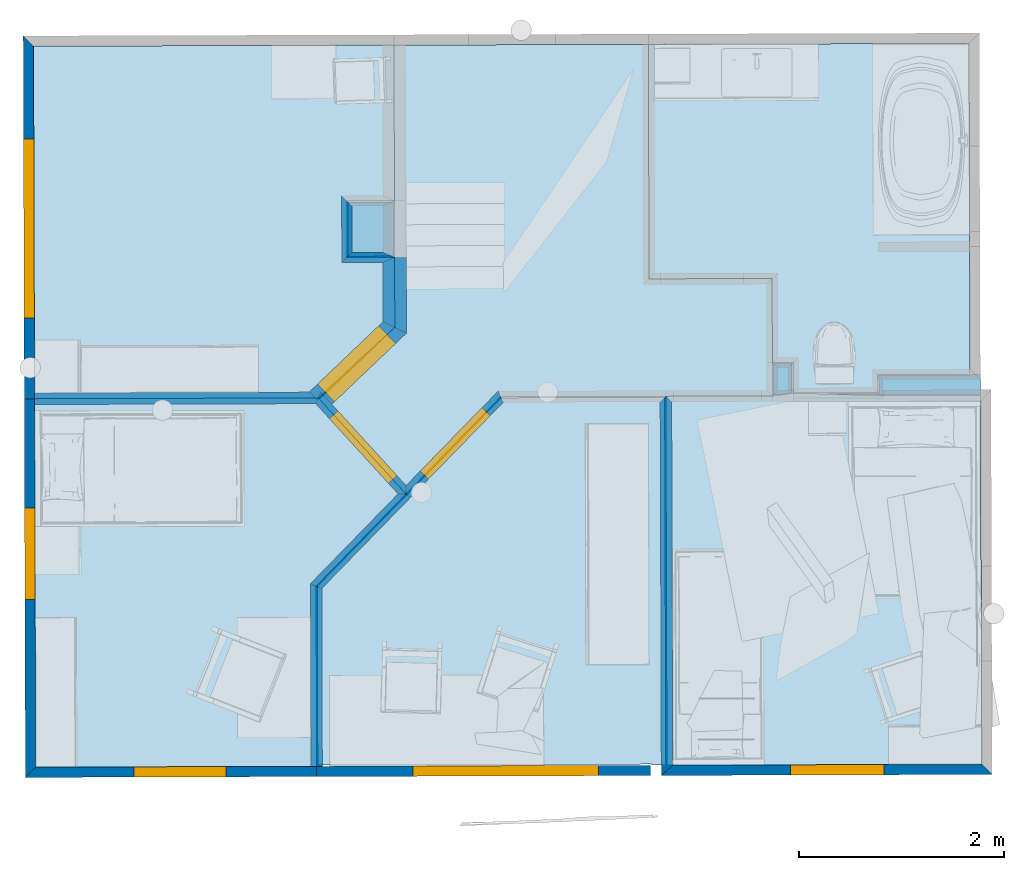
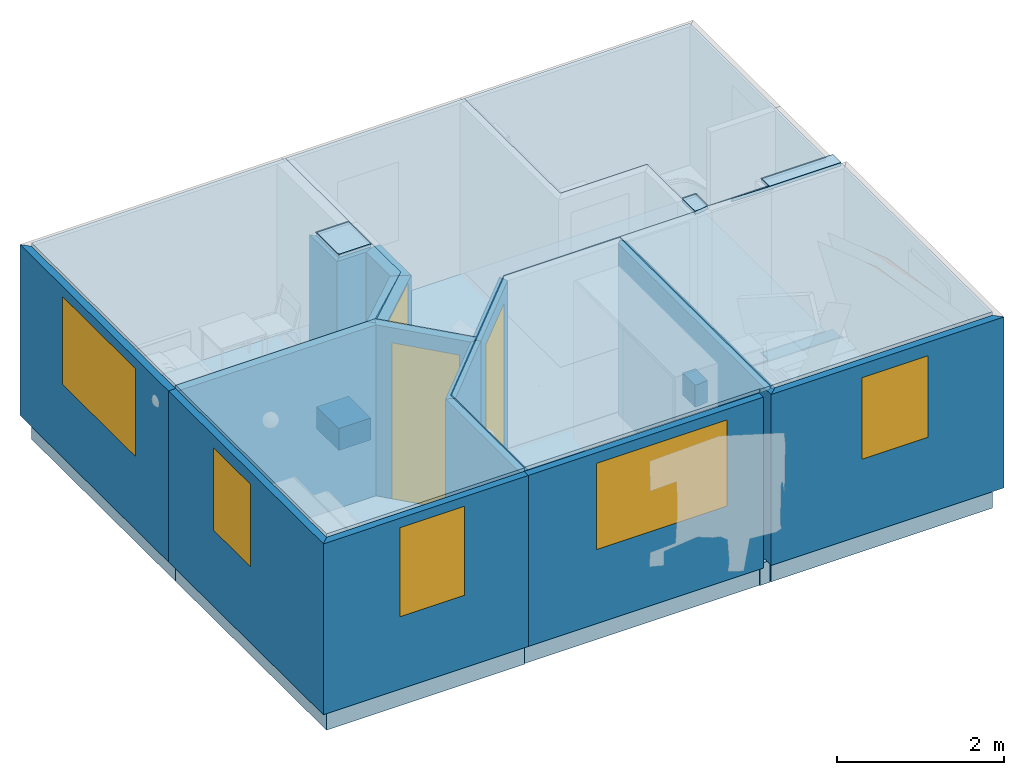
# One storey, part 1 of 15: 18 slabs, 15 walls, 5 windows, 3 doors, 8 openings.
"""IFC4 building model written with IfcOpenShell, lengths in metres."""

from ifc_helpers import new_model, si_unit, direction, frame, origin_with_axes, place, context, subcontext, project, spatial, polyline, outline, extrude, type_object, element, fill, save


model = new_model("IFC4")

# Units and contexts
model_context = context("Model", 3, precision=1e-05, world=origin_with_axes(), true_north=direction((-0.077, 0.997, 0.0)))
body_context = subcontext(model_context, "Body", "Model", "MODEL_VIEW")
ifc_project = project(units=[si_unit("AREAUNIT", "SQUARE_METRE"), si_unit("LENGTHUNIT", "METRE")], contexts=[model_context])

# Site, building, storey
site_placement = place(None, origin_with_axes())
site = spatial("IfcSite", under=ifc_project, at=site_placement, Name="Site", CompositionType="ELEMENT")
building_placement = place(site_placement, origin_with_axes())
building = spatial("IfcBuilding", under=site, at=building_placement, Name="Building", CompositionType="ELEMENT")
storey_placement = place(building_placement, frame((0.0, 0.0, 5.71135139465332), z_axis=(0.0, 0.0, 1.0), x_axis=(1.0, 0.0, 0.0)))
storey = spatial("IfcBuildingStorey", under=building, at=storey_placement, Name="Story 2", CompositionType="ELEMENT", Elevation=5.71135139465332)

# Slabs
slab_type_1 = type_object("IfcSlabType", Name="Metaroom Slab", PredefinedType="FLOOR")
slab_1_placement = place(storey_placement, frame((0.690336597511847, -3.44117325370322, 0.0), z_axis=(0.0, 0.0, 1.0), x_axis=(1.0, 0.0, 0.0)))
element("IfcSlab", 1, at=slab_1_placement, inside=storey, type_object=slab_type_1, Name="Floor", PredefinedType="FLOOR", context=body_context, shape_type="SweptSolid", body=[
    extrude(outline(polyline([(0.0, 0.0), (0.00525565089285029, -1.75783428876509), (-2.73601860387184, -1.76603039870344), (-2.7467660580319, 1.82881949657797), (0.0215895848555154, 1.83709648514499), (0.877028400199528, 0.89980238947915), (0.0, 0.0)])), origin_with_axes(), (0.0, 0.0, -1.0), 0.321562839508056),
])
slab_type_2 = type_object("IfcSlabType", Name="Metaroom Slab", PredefinedType="FLOOR")
slab_2_placement = place(storey_placement, frame((6.17307964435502, -1.55347257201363, 0.0), z_axis=(0.0, 0.0, 1.0), x_axis=(1.0, 0.0, 0.0)))
element("IfcSlab", 2, at=slab_2_placement, inside=storey, type_object=slab_type_2, Name="Floor", PredefinedType="FLOOR", context=body_context, shape_type="SweptSolid", body=[
    extrude(outline(polyline([(0.0, 0.0), (-0.824898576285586, -0.00246620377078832), (-0.825786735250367, 0.294560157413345), (-1.02980310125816, 0.293949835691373), (-1.03225707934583, 1.11467606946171), (-2.23308135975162, 1.11108588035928), (-2.23992529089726, 3.4000697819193), (0.889729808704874, 3.40942810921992), (0.895663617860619, 1.42472591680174), (0.899386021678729, 0.179522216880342), (-0.000529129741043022, 0.176831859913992), (0.0, 0.0)])), origin_with_axes(), (0.0, 0.0, -1.0), 0.321562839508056),
])
slab_type_3 = type_object("IfcSlabType", Name="Metaroom Slab", PredefinedType="FLOOR")
slab_3_placement = place(storey_placement, frame((1.45092167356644, 1.83917569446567, 0.0), z_axis=(0.0, 0.0, 1.0), x_axis=(1.0, 0.0, 0.0)))
element("IfcSlab", 3, at=slab_3_placement, inside=storey, type_object=slab_type_3, Name="Floor", PredefinedType="FLOOR", context=body_context, shape_type="SweptSolid", body=[
    extrude(outline(polyline([(0.0, 0.0), (0.00454192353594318, -1.51911499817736), (-0.460557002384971, -1.52050548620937), (-0.458905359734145, -2.07292190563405), (0.00619343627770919, -2.07153138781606), (0.00823720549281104, -2.7550752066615), (-0.738995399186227, -3.4432525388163), (-3.50735122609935, -3.45152937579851), (-3.51763928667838, -0.0105162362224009), (0.0, 0.0)])), origin_with_axes(), (0.0, 0.0, -1.0), 0.321562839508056),
])
slab_type_4 = type_object("IfcSlabType", Name="Metaroom Slab", PredefinedType="FLOOR")
slab_4_placement = place(storey_placement, frame((3.9626371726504, -5.18866604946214, 0.0), z_axis=(0.0, 0.0, 1.0), x_axis=(1.0, 0.0, 0.0)))
element("IfcSlab", 4, at=slab_4_placement, inside=storey, type_object=slab_type_4, Name="Floor", PredefinedType="FLOOR", context=body_context, shape_type="SweptSolid", body=[
    extrude(outline(polyline([(0.0, 0.0), (0.139999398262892, 0.000418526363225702), (0.129265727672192, 3.59040273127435), (-1.46572709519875, 3.58563394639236), (-2.38789757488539, 2.63787257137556), (-3.26023272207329, 1.74526032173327), (-3.25501554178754, 0.000268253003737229), (-0.0100298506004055, 0.00997005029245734), (-0.00503006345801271, 0.00998519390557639), (-2.99840566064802e-05, 0.00999994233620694), (-1.49920283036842e-05, 0.00499997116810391), (0.0, 0.0)])), origin_with_axes(), (0.0, 0.0, -1.0), 0.321562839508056),
])
slab_type_5 = type_object("IfcSlabType", Name="Metaroom Slab", PredefinedType="FLOOR")
slab_5_placement = place(storey_placement, frame((5.3481805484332, -1.55593865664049, 0.0), z_axis=(0.0, 0.0, 1.0), x_axis=(1.0, 0.0, 0.0)))
element("IfcSlab", 5, at=slab_5_placement, inside=storey, type_object=slab_type_5, Name="Floor", PredefinedType="FLOOR", context=body_context, shape_type="SweptSolid", body=[
    extrude(outline(polyline([(0.0, 0.0), (0.824983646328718, -0.0258693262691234), (1.82867830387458, -0.0228687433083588), (1.83944179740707, -3.6230855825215), (-1.23305930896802, -3.63227209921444), (-1.24382320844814, -0.0320550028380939), (-0.20393129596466, -0.0289458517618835), (0.0, 0.0)])), origin_with_axes(), (0.0, 0.0, -1.0), 0.321562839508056),
])
slab_type_6 = type_object("IfcSlabType", Name="Metaroom Slab", PredefinedType="FLOOR")
slab_6_placement = place(storey_placement, frame((5.21183834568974, -1.574914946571, 0.0), z_axis=(0.0, 0.0, 1.0), x_axis=(1.0, 0.0, 0.0)))
element("IfcSlab", 6, at=slab_6_placement, inside=storey, type_object=slab_type_6, Name="Floor", PredefinedType="FLOOR", context=body_context, shape_type="SweptSolid", body=[
    extrude(outline(polyline([(0.0, 0.0), (0.124939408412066, 0.0203736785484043), (0.124087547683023, 0.305372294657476), (-0.0609116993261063, 0.304819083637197), (-0.0599998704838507, -0.000179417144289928), (0.0, 0.0)])), origin_with_axes(), (0.0, 0.0, -1.0), 0.321562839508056),
])
slab_type_7 = type_object("IfcSlabType", Name="Metaroom Slab", PredefinedType="FLOOR")
slab_7_placement = place(storey_placement, frame((1.00277587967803, -0.222493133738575, 0.0), z_axis=(0.0, 0.0, 1.0), x_axis=(1.0, 0.0, 0.0)))
element("IfcSlab", 7, at=slab_7_placement, inside=storey, type_object=slab_type_7, Name="Floor", PredefinedType="FLOOR", context=body_context, shape_type="SweptSolid", body=[
    extrude(outline(polyline([(0.0, 0.0), (0.444997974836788, 0.00133044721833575), (0.443413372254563, 0.531328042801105), (-0.00158460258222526, 0.529997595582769), (0.0, 0.0)])), origin_with_axes(), (0.0, 0.0, -1.0), 0.321562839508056),
])
slab_type_8 = type_object("IfcSlabType", Name="Metaroom Slab", PredefinedType="FLOOR")
slab_8_placement = place(storey_placement, frame((5.14327654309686, -1.25952273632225, 0.0), z_axis=(0.0, 0.0, 1.0), x_axis=(1.0, 0.0, 0.0)))
element("IfcSlab", 8, at=slab_8_placement, inside=storey, type_object=slab_type_8, Name="Floor", PredefinedType="FLOOR", context=body_context, shape_type="SweptSolid", body=[
    extrude(outline(polyline([(0.0, 0.0), (0.000972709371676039, -0.325361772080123), (-1.0389192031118, -0.328470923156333), (-2.65136399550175, -0.333291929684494), (-3.5759118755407, -1.28184777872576), (-4.43475738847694, -0.371321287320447), (-3.68411781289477, 0.343623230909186), (-3.68616143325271, 1.02716704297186), (-3.68781306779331, 1.57958337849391), (-3.6923548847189, 3.09869875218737), (-1.21012170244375, 3.10612016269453), (-1.20327859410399, 0.817136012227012), (-0.00245397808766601, 0.820726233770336), (0.0, 0.0)])), origin_with_axes(), (0.0, 0.0, -1.0), 0.321562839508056),
])
slab_type_9 = type_object("IfcSlabType", Name="Metaroom Slab", PredefinedType="FLOOR")
slab_9_placement = place(storey_placement, frame((7.17624629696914, -1.37404075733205, 0.0), z_axis=(0.0, 0.0, 1.0), x_axis=(1.0, 0.0, 0.0)))
element("IfcSlab", 9, at=slab_9_placement, inside=storey, type_object=slab_type_9, Name="Floor", PredefinedType="FLOOR", context=body_context, shape_type="SweptSolid", body=[
    extrude(outline(polyline([(0.0, 0.0), (-0.0949997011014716, -0.000284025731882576), (-0.0949847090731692, -0.00528399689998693), (-0.0999695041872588, -0.0102991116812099), (-0.104969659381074, -0.0103139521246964), (-0.994965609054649, -0.0129748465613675), (-0.994472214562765, -0.177974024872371), (-0.994457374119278, -0.182974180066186), (-0.994442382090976, -0.187974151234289), (-0.99944253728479, -0.187988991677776), (-1.00444217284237, -0.188003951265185), (-1.51443998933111, -0.189528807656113), (-1.28441113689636, -0.198841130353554), (-1.00441234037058, -0.198004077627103), (0.00058319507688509, -0.194999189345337), (0.0, 0.0)])), origin_with_axes(), (0.0, 0.0, -1.0), 0.321562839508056),
])
slab_type_10 = type_object("IfcSlabType", Name="Metaroom Ceiling", PredefinedType="ROOF")
slab_10_placement = place(storey_placement, frame((0.690336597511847, -3.44117325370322, 2.50098705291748), z_axis=(0.0, 0.0, 1.0), x_axis=(1.0, 0.0, 0.0)))
element("IfcSlab", 10, at=slab_10_placement, inside=storey, type_object=slab_type_10, Name="Ceiling", PredefinedType="ROOF", context=body_context, shape_type="SweptSolid", body=[
    extrude(outline(polyline([(0.0, 0.0), (0.00525565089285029, -1.75783428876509), (-2.73601860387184, -1.76603039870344), (-2.7467660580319, 1.82881949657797), (0.0215895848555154, 1.83709648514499), (0.877028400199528, 0.89980238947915), (0.0, 0.0)])), origin_with_axes(), (0.0, 0.0, 1.0), 0.05),
])
slab_type_11 = type_object("IfcSlabType", Name="Metaroom Ceiling", PredefinedType="ROOF")
slab_11_placement = place(storey_placement, frame((6.17307964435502, -1.55347257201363, 2.50098705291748), z_axis=(0.0, 0.0, 1.0), x_axis=(1.0, 0.0, 0.0)))
element("IfcSlab", 11, at=slab_11_placement, inside=storey, type_object=slab_type_11, Name="Ceiling", PredefinedType="ROOF", context=body_context, shape_type="SweptSolid", body=[
    extrude(outline(polyline([(0.0, 0.0), (-0.824898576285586, -0.00246620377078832), (-0.825786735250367, 0.294560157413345), (-1.02980310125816, 0.293949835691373), (-1.03225707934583, 1.11467606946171), (-2.23308135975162, 1.11108588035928), (-2.23992529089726, 3.4000697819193), (0.889729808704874, 3.40942810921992), (0.895663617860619, 1.42472591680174), (0.899386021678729, 0.179522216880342), (-0.000529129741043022, 0.176831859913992), (0.0, 0.0)])), origin_with_axes(), (0.0, 0.0, 1.0), 0.05),
])
slab_type_12 = type_object("IfcSlabType", Name="Metaroom Ceiling", PredefinedType="ROOF")
slab_12_placement = place(storey_placement, frame((1.45092167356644, 1.83917569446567, 2.50098705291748), z_axis=(0.0, 0.0, 1.0), x_axis=(1.0, 0.0, 0.0)))
element("IfcSlab", 12, at=slab_12_placement, inside=storey, type_object=slab_type_12, Name="Ceiling", PredefinedType="ROOF", context=body_context, shape_type="SweptSolid", body=[
    extrude(outline(polyline([(0.0, 0.0), (0.00454192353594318, -1.51911499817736), (-0.460557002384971, -1.52050548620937), (-0.458905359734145, -2.07292190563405), (0.00619343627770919, -2.07153138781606), (0.00823720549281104, -2.7550752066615), (-0.738995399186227, -3.4432525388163), (-3.50735122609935, -3.45152937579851), (-3.51763928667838, -0.0105162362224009), (0.0, 0.0)])), origin_with_axes(), (0.0, 0.0, 1.0), 0.05),
])
slab_type_13 = type_object("IfcSlabType", Name="Metaroom Ceiling", PredefinedType="ROOF")
slab_13_placement = place(storey_placement, frame((3.9626371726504, -5.18866604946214, 2.50098705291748), z_axis=(0.0, 0.0, 1.0), x_axis=(1.0, 0.0, 0.0)))
element("IfcSlab", 13, at=slab_13_placement, inside=storey, type_object=slab_type_13, Name="Ceiling", PredefinedType="ROOF", context=body_context, shape_type="SweptSolid", body=[
    extrude(outline(polyline([(0.0, 0.0), (0.139999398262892, 0.000418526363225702), (0.129265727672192, 3.59040273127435), (-1.46572709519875, 3.58563394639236), (-2.38789757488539, 2.63787257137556), (-3.26023272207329, 1.74526032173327), (-3.25501554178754, 0.000268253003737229), (-0.0100298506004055, 0.00997005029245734), (-0.00503006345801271, 0.00998519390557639), (-2.99840566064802e-05, 0.00999994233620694), (-1.49920283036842e-05, 0.00499997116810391), (0.0, 0.0)])), origin_with_axes(), (0.0, 0.0, 1.0), 0.05),
])
slab_type_14 = type_object("IfcSlabType", Name="Metaroom Ceiling", PredefinedType="ROOF")
slab_14_placement = place(storey_placement, frame((5.3481805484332, -1.55593865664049, 2.50098705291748), z_axis=(0.0, 0.0, 1.0), x_axis=(1.0, 0.0, 0.0)))
element("IfcSlab", 14, at=slab_14_placement, inside=storey, type_object=slab_type_14, Name="Ceiling", PredefinedType="ROOF", context=body_context, shape_type="SweptSolid", body=[
    extrude(outline(polyline([(0.0, 0.0), (0.824983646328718, -0.0258693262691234), (1.82867830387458, -0.0228687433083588), (1.83944179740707, -3.6230855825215), (-1.23305930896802, -3.63227209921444), (-1.24382320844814, -0.0320550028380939), (-0.20393129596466, -0.0289458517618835), (0.0, 0.0)])), origin_with_axes(), (0.0, 0.0, 1.0), 0.05),
])
slab_type_15 = type_object("IfcSlabType", Name="Metaroom Ceiling", PredefinedType="ROOF")
slab_15_placement = place(storey_placement, frame((5.21183834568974, -1.574914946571, 2.50098705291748), z_axis=(0.0, 0.0, 1.0), x_axis=(1.0, 0.0, 0.0)))
element("IfcSlab", 15, at=slab_15_placement, inside=storey, type_object=slab_type_15, Name="Ceiling", PredefinedType="ROOF", context=body_context, shape_type="SweptSolid", body=[
    extrude(outline(polyline([(0.0, 0.0), (0.124939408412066, 0.0203736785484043), (0.124087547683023, 0.305372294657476), (-0.0609116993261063, 0.304819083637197), (-0.0599998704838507, -0.000179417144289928), (0.0, 0.0)])), origin_with_axes(), (0.0, 0.0, 1.0), 0.05),
])
slab_type_16 = type_object("IfcSlabType", Name="Metaroom Ceiling", PredefinedType="ROOF")
slab_16_placement = place(storey_placement, frame((1.00277587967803, -0.222493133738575, 2.50098705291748), z_axis=(0.0, 0.0, 1.0), x_axis=(1.0, 0.0, 0.0)))
element("IfcSlab", 16, at=slab_16_placement, inside=storey, type_object=slab_type_16, Name="Ceiling", PredefinedType="ROOF", context=body_context, shape_type="SweptSolid", body=[
    extrude(outline(polyline([(0.0, 0.0), (0.444997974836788, 0.00133044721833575), (0.443413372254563, 0.531328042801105), (-0.00158460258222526, 0.529997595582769), (0.0, 0.0)])), origin_with_axes(), (0.0, 0.0, 1.0), 0.05),
])
slab_type_17 = type_object("IfcSlabType", Name="Metaroom Ceiling", PredefinedType="ROOF")
slab_17_placement = place(storey_placement, frame((5.14327654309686, -1.25952273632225, 2.50098705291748), z_axis=(0.0, 0.0, 1.0), x_axis=(1.0, 0.0, 0.0)))
element("IfcSlab", 17, at=slab_17_placement, inside=storey, type_object=slab_type_17, Name="Ceiling", PredefinedType="ROOF", context=body_context, shape_type="SweptSolid", body=[
    extrude(outline(polyline([(0.0, 0.0), (0.000972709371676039, -0.325361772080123), (-1.0389192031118, -0.328470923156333), (-2.65136399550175, -0.333291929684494), (-3.5759118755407, -1.28184777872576), (-4.43475738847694, -0.371321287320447), (-3.68411781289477, 0.343623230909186), (-3.68616143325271, 1.02716704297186), (-3.68781306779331, 1.57958337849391), (-3.6923548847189, 3.09869875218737), (-1.21012170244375, 3.10612016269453), (-1.20327859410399, 0.817136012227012), (-0.00245397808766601, 0.820726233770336), (0.0, 0.0)])), origin_with_axes(), (0.0, 0.0, 1.0), 0.05),
])
slab_type_18 = type_object("IfcSlabType", Name="Metaroom Ceiling", PredefinedType="ROOF")
slab_18_placement = place(storey_placement, frame((7.17624629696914, -1.37404075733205, 2.50098705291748), z_axis=(0.0, 0.0, 1.0), x_axis=(1.0, 0.0, 0.0)))
element("IfcSlab", 18, at=slab_18_placement, inside=storey, type_object=slab_type_18, Name="Ceiling", PredefinedType="ROOF", context=body_context, shape_type="SweptSolid", body=[
    extrude(outline(polyline([(0.0, 0.0), (-0.0949997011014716, -0.000284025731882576), (-0.0949847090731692, -0.00528399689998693), (-0.0999695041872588, -0.0102991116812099), (-0.104969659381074, -0.0103139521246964), (-0.994965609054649, -0.0129748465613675), (-0.994472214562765, -0.177974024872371), (-0.994457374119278, -0.182974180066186), (-0.994442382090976, -0.187974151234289), (-0.99944253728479, -0.187988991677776), (-1.00444217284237, -0.188003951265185), (-1.51443998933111, -0.189528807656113), (-1.28441113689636, -0.198841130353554), (-1.00441234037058, -0.198004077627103), (0.00058319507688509, -0.194999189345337), (0.0, 0.0)])), origin_with_axes(), (0.0, 0.0, 1.0), 0.05),
])

# Wall
wall_type_1 = type_object("IfcWallType", Name="Metaroom Wall", PredefinedType="STANDARD")
wall_1_placement = place(storey_placement, frame((0.634486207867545, -3.41855468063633, 0.0), z_axis=(0.0, 0.0, 1.0), x_axis=(1.0, 0.0, 0.0)))
element("IfcWallStandardCase", 19, at=wall_1_placement, inside=storey, type_object=wall_type_1, Name="Wall", context=body_context, shape_type="SweptSolid", body=[
    extrude(outline(polyline([(0.0, 0.0), (0.111701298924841, -0.0452372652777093), (0.116888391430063, -1.78028614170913), (0.0611058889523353, -1.78045304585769), (0.00532335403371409, -1.78061961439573), (0.0, 0.0)])), origin_with_axes(), (0.0, 0.0, 1.0), 2.50098705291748),
])

# Wall, opening, window
wall_type_2 = type_object("IfcWallType", Name="Metaroom Wall", PredefinedType="STANDARD")
wall_2_placement = place(storey_placement, frame((-2.15642913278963, -1.61265277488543, 0.0), z_axis=(0.0, 0.0, 1.0), x_axis=(1.0, 0.0, 0.0)))
wall_2 = element("IfcWallStandardCase", 20, at=wall_2_placement, inside=storey, type_object=wall_type_2, Name="Wall", context=body_context, shape_type="SweptSolid", body=[
    extrude(outline(polyline([(0.0, 0.0), (0.099999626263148, 0.000299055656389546), (0.100166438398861, -0.0554833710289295), (0.110747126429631, -3.59455087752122), (0.0110465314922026, -3.69484930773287), (0.0, 0.0)])), origin_with_axes(), (0.0, 0.0, 1.0), 2.50098705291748),
])
opening_1_placement = place(wall_2_placement, frame((0.105849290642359, -1.95630509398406, 1.11409428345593), z_axis=(0.0, 0.0, 1.0), x_axis=(-0.00298968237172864, 0.999995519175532, 0.0)))
opening_1 = element("IfcOpeningElement", 21, at=opening_1_placement, cuts=wall_2, Name="Metaroom Opening", ObjectType="OPENING", context=body_context, shape_type="SweptSolid", body=[
    extrude(outline(polyline([(-1.2490009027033e-16, 0.0), (0.889000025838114, 0.0), (0.889000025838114, 1.20372822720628), (-1.2490009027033e-16, 1.20372822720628), (-1.2490009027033e-16, 0.0)])), frame((0.0, 0.0, 0.0), z_axis=(0.0, -1.0, 0.0), x_axis=(1.0, 0.0, 0.0)), (0.0, 0.0, -1.0), 0.100100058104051),
])
window_type_1 = type_object("IfcWindowType", Name="Metaroom Window area", PredefinedType="WINDOW")
window_1_placement = place(opening_1_placement, origin_with_axes())
window_1 = element("IfcWindow", 22, at=window_1_placement, inside=storey, type_object=window_type_1, Name="Metaroom Window area", OverallHeight=1.5, OverallWidth=0.5, context=body_context, shape_type="SweptSolid", body=[
    extrude(outline(polyline([(-3.20923843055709e-17, 0.0), (-0.889000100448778, 0.0), (-0.889000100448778, 1.20372819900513), (-3.20923843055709e-17, 1.20372819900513), (-3.20923843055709e-17, 0.0)])), frame((0.0, 0.100000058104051, 0.0), z_axis=(0.0, 1.0, 0.0), x_axis=(-1.0, 0.0, 0.0)), (0.0, 0.0, -1.0), 0.100000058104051),
])
fill(opening_1, window_1)

# Wall, opening, door
wall_type_3 = type_object("IfcWallType", Name="Metaroom Wall", PredefinedType="STANDARD")
wall_3_placement = place(storey_placement, frame((0.687381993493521, -1.65993316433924, 0.0), z_axis=(0.0, 0.0, 1.0), x_axis=(1.0, 0.0, 0.0)))
wall_3 = element("IfcWallStandardCase", 23, at=wall_3_placement, inside=storey, type_object=wall_type_3, Name="Wall", context=body_context, shape_type="SweptSolid", body=[
    extrude(outline(polyline([(0.0, 0.0), (0.0490884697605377, 0.111712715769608), (0.88131659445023, -0.80014969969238), (0.879982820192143, -0.881437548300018), (0.803312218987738, -0.880179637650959), (0.0, 0.0)])), origin_with_axes(), (0.0, 0.0, 1.0), 2.50098705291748),
])
opening_2_placement = place(wall_3_placement, frame((0.134037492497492, -0.146863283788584, 0.0), z_axis=(0.0, 0.0, 1.0), x_axis=(0.67411830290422, -0.738623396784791, 0.0)))
opening_2 = element("IfcOpeningElement", 24, at=opening_2_placement, cuts=wall_3, Name="Metaroom Opening", ObjectType="OPENING", context=body_context, shape_type="SweptSolid", body=[
    extrude(outline(polyline([(0.0, 0.0), (0.853780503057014, 0.0), (0.853780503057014, 2.28108833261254), (0.0, 2.28108833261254), (0.0, 0.0)])), frame((0.0, 0.0, 0.0), z_axis=(0.0, -1.0, 0.0), x_axis=(1.0, 0.0, 0.0)), (0.0, 0.0, -1.0), 0.111665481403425),
])
door_type_1 = type_object("IfcDoorType", Name="Metaroom Door area", PredefinedType="DOOR")
door_1_placement = place(opening_2_placement, origin_with_axes())
door_1 = element("IfcDoor", 25, at=door_1_placement, inside=storey, type_object=door_type_1, Name="Metaroom Door area", OverallHeight=2.28108835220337, OverallWidth=0.853780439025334, context=body_context, shape_type="SweptSolid", body=[
    extrude(outline(polyline([(0.0, 0.0), (-0.853780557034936, 0.0), (-0.853780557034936, 2.28108835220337), (0.0, 2.28108835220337), (0.0, 0.0)])), frame((0.0, 0.111565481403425, 0.0), z_axis=(0.0, 1.0, 0.0), x_axis=(-1.0, 0.0, 0.0)), (0.0, 0.0, -1.0), 0.111565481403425),
])
fill(opening_2, door_1)

# Wall, opening, window
wall_type_4 = type_object("IfcWallType", Name="Metaroom Wall", PredefinedType="STANDARD")
wall_4_placement = place(storey_placement, frame((-2.14538260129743, -5.3075020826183, 0.0), z_axis=(0.0, 0.0, 1.0), x_axis=(1.0, 0.0, 0.0)))
wall_4 = element("IfcWallStandardCase", 26, at=wall_4_placement, inside=storey, type_object=wall_type_4, Name="Wall", context=body_context, shape_type="SweptSolid", body=[
    extrude(outline(polyline([(0.0, 0.0), (0.0997005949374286, 0.100298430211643), (2.78519216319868, 0.108327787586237), (2.84097469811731, 0.108494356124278), (2.8412736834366, 0.00849501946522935), (0.0, 0.0)])), origin_with_axes(), (0.0, 0.0, 1.0), 2.50098705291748),
])
opening_3_placement = place(wall_4_placement, frame((1.95479937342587, 0.105844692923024, 1.06223488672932), z_axis=(0.0, 0.0, 1.0), x_axis=(-0.999995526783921, -0.00298976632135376, 0.0)))
opening_3 = element("IfcOpeningElement", 27, at=opening_3_placement, cuts=wall_4, Name="Metaroom Opening", ObjectType="OPENING", context=body_context, shape_type="SweptSolid", body=[
    extrude(outline(polyline([(0.0, 0.0), (0.896960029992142, 0.0), (0.896960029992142, 1.30003071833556), (0.0, 1.30003071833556), (0.0, 0.0)])), frame((0.0, 0.0, 0.0), z_axis=(0.0, -1.0, 0.0), x_axis=(1.0, 0.0, 0.0)), (0.0, 0.0, -1.0), 0.100099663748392),
])
window_type_2 = type_object("IfcWindowType", Name="Metaroom Window area", PredefinedType="WINDOW")
window_2_placement = place(opening_3_placement, origin_with_axes())
window_2 = element("IfcWindow", 28, at=window_2_placement, inside=storey, type_object=window_type_2, Name="Metaroom Window area", OverallHeight=1.5, OverallWidth=0.5, context=body_context, shape_type="SweptSolid", body=[
    extrude(outline(polyline([(0.0, 0.0), (-0.89695998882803, 0.0), (-0.89695998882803, 1.30003070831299), (0.0, 1.30003070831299), (0.0, 0.0)])), frame((0.0, 0.0999996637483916, 0.0), z_axis=(0.0, 1.0, 0.0), x_axis=(-1.0, 0.0, 0.0)), (0.0, 0.0, -1.0), 0.0999996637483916),
])
fill(opening_3, window_2)

# Walls
wall_type_5 = type_object("IfcWallType", Name="Metaroom Wall", PredefinedType="STANDARD")
wall_5_placement = place(storey_placement, frame((-2.05626269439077, -1.66813614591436, 0.0), z_axis=(0.0, 0.0, 1.0), x_axis=(1.0, 0.0, 0.0)))
element("IfcWallStandardCase", 29, at=wall_5_placement, inside=storey, type_object=wall_type_5, Name="Wall", context=body_context, shape_type="SweptSolid", body=[
    extrude(outline(polyline([(0.0, 0.0), (-0.000166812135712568, 0.0557824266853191), (-0.000333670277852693, 0.111564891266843), (2.79273315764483, 0.119915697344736), (2.74364468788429, 0.00820298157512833), (0.0, 0.0)])), origin_with_axes(), (0.0, 0.0, 1.0), 2.50098705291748),
])
wall_type_6 = type_object("IfcWallType", Name="Metaroom Wall", PredefinedType="STANDARD")
wall_6_placement = place(storey_placement, frame((0.746187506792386, -3.46379194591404, 0.0), z_axis=(0.0, 0.0, 1.0), x_axis=(1.0, 0.0, 0.0)))
element("IfcWallStandardCase", 30, at=wall_6_placement, inside=storey, type_object=wall_type_6, Name="Wall", context=body_context, shape_type="SweptSolid", body=[
    extrude(outline(polyline([(0.0, 0.0), (-0.111701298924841, 0.0452372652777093), (0.744506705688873, 0.923679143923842), (0.821177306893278, 0.922421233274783), (0.861124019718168, 0.883485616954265), (0.0, 0.0)])), origin_with_axes(), (0.0, 0.0, 1.0), 2.50098705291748),
])
wall_type_7 = type_object("IfcWallType", Name="Metaroom Wall", PredefinedType="STANDARD")
wall_7_placement = place(storey_placement, frame((0.940215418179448, 0.368520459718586, 0.0), z_axis=(0.0, 0.0, 1.0), x_axis=(1.0, 0.0, 0.0)))
element("IfcWallStandardCase", 31, at=wall_7_placement, inside=storey, type_object=wall_type_7, Name="Wall", context=body_context, shape_type="SweptSolid", body=[
    extrude(outline(polyline([(0.0, 0.0), (0.100298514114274, -0.0997005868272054), (0.101651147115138, -0.55211741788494), (0.00195062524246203, -0.652415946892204), (0.0, 0.0)])), origin_with_axes(), (0.0, 0.0, 1.0), 2.50098705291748),
])

# Wall, opening, door
wall_type_8 = type_object("IfcWallType", Name="Metaroom Wall", PredefinedType="STANDARD")
wall_8_placement = place(storey_placement, frame((0.626429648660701, -1.54465602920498, 0.0), z_axis=(0.0, 0.0, 1.0), x_axis=(1.0, 0.0, 0.0)))
wall_8 = element("IfcWallStandardCase", 32, at=wall_8_placement, inside=storey, type_object=wall_type_8, Name="Wall", context=body_context, shape_type="SweptSolid", body=[
    extrude(outline(polyline([(0.0, 0.0), (0.718764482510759, 0.684585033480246), (0.946693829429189, 0.572928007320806), (0.164178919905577, -0.17237591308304), (0.0, 0.0)])), origin_with_axes(), (0.0, 0.0, 1.0), 2.50098705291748),
])
opening_4_placement = place(wall_8_placement, frame((0.243310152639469, -0.0970076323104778, 0.0), z_axis=(0.0, 0.0, 1.0), x_axis=(0.724114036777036, 0.689680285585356, 0.0)))
opening_4 = element("IfcOpeningElement", 33, at=opening_4_placement, cuts=wall_8, Name="Metaroom Opening", ObjectType="OPENING", context=body_context, shape_type="SweptSolid", body=[
    extrude(outline(polyline([(0.0, 0.0), (0.824479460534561, 0.0), (0.824479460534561, 2.47688284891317), (0.0, 2.47688284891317), (0.0, 0.0)])), frame((0.0, 0.0, 0.0), z_axis=(0.0, -1.0, 0.0), x_axis=(1.0, 0.0, 0.0)), (0.0, 0.0, -1.0), 0.238150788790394),
])
door_type_2 = type_object("IfcDoorType", Name="Metaroom Door area", PredefinedType="DOOR")
door_2_placement = place(opening_4_placement, origin_with_axes())
door_2 = element("IfcDoor", 34, at=door_2_placement, inside=storey, type_object=door_type_2, Name="Metaroom Door area", OverallHeight=2.47688293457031, OverallWidth=0.824479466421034, context=body_context, shape_type="SweptSolid", body=[
    extrude(outline(polyline([(0.0, 0.0), (-0.824479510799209, 0.0), (-0.824479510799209, 2.47688293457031), (0.0, 2.47688293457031), (0.0, 0.0)])), frame((0.0, 0.238050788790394, 0.0), z_axis=(0.0, 1.0, 0.0), x_axis=(-1.0, 0.0, 0.0)), (0.0, 0.0, -1.0), 0.238050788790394),
])
fill(opening_4, door_2)

# Wall, opening, window
wall_type_9 = type_object("IfcWallType", Name="Metaroom Wall", PredefinedType="STANDARD")
wall_9_placement = place(storey_placement, frame((-2.1670159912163, 1.92836011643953, 0.0), z_axis=(0.0, 0.0, 1.0), x_axis=(1.0, 0.0, 0.0)))
wall_9 = element("IfcWallStandardCase", 35, at=wall_9_placement, inside=storey, type_object=wall_type_9, Name="Wall", context=body_context, shape_type="SweptSolid", body=[
    extrude(outline(polyline([(0.0, 0.0), (0.100298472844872, -0.0997005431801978), (0.11041962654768, -3.48493137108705), (0.11058648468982, -3.54071383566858), (0.0105868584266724, -3.54101289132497), (0.0, 0.0)])), origin_with_axes(), (0.0, 0.0, 1.0), 2.50098705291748),
])
opening_5_placement = place(wall_9_placement, frame((0.108232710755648, -2.75348809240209, 1.06653786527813), z_axis=(0.0, 0.0, 1.0), x_axis=(-0.00298976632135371, 0.999995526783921, 0.0)))
opening_5 = element("IfcOpeningElement", 36, at=opening_5_placement, cuts=wall_9, Name="Metaroom Opening", ObjectType="OPENING", context=body_context, shape_type="SweptSolid", body=[
    extrude(outline(polyline([(5.46437894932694e-17, 0.0), (1.74620907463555, 0.0), (1.74620907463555, 1.28411103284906), (5.46437894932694e-17, 1.28411103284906), (5.46437894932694e-17, 0.0)])), frame((0.0, 0.0, 0.0), z_axis=(0.0, -1.0, 0.0), x_axis=(1.0, 0.0, 0.0)), (0.0, 0.0, -1.0), 0.100099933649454),
])
window_type_3 = type_object("IfcWindowType", Name="Metaroom Window area", PredefinedType="WINDOW")
window_3_placement = place(opening_5_placement, origin_with_axes())
window_3 = element("IfcWindow", 37, at=window_3_placement, inside=storey, type_object=window_type_3, Name="Metaroom Window area", OverallHeight=1.5, OverallWidth=0.5, context=body_context, shape_type="SweptSolid", body=[
    extrude(outline(polyline([(3.55618312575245e-17, 0.0), (-1.74620923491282, 0.0), (-1.74620923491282, 1.28411102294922), (3.55618312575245e-17, 1.28411102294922), (3.55618312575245e-17, 0.0)])), frame((0.0, 0.0999999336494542, 0.0), z_axis=(0.0, 1.0, 0.0), x_axis=(-1.0, 0.0, 0.0)), (0.0, 0.0, -1.0), 0.0999999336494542),
])
fill(opening_5, window_3)

# Walls
wall_type_10 = type_object("IfcWallType", Name="Metaroom Wall", PredefinedType="STANDARD")
wall_10_placement = place(storey_placement, frame((0.94216604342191, -0.283895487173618, 0.0), z_axis=(0.0, 0.0, 1.0), x_axis=(1.0, 0.0, 0.0)))
element("IfcWallStandardCase", 38, at=wall_10_placement, inside=storey, type_object=wall_type_10, Name="Wall", context=body_context, shape_type="SweptSolid", body=[
    extrude(outline(polyline([(0.0, 0.0), (0.0997005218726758, 0.100298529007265), (0.401002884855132, 0.101199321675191), (0.514949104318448, 0.0515398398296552), (0.401301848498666, 0.00119977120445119), (0.0, 0.0)])), origin_with_axes(), (0.0, 0.0, 1.0), 2.50098705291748),
])
wall_type_11 = type_object("IfcWallType", Name="Metaroom Wall", PredefinedType="STANDARD")
wall_11_placement = place(storey_placement, frame((1.34346789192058, -0.282695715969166, 0.0), z_axis=(0.0, 0.0, 1.0), x_axis=(1.0, 0.0, 0.0)))
element("IfcWallStandardCase", 39, at=wall_11_placement, inside=storey, type_object=wall_type_11, Name="Wall", context=body_context, shape_type="SweptSolid", body=[
    extrude(outline(polyline([(0.0, 0.0), (0.113647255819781, 0.050340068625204), (0.227443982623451, 0.0506802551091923), (0.229655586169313, -0.689032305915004), (0.00172623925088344, -0.577375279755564), (0.0, 0.0)])), origin_with_axes(), (0.0, 0.0, 1.0), 2.50098705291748),
])
wall_type_12 = type_object("IfcWallType", Name="Metaroom Wall", PredefinedType="STANDARD")
wall_12_placement = place(storey_placement, frame((4.04874137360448, -1.64394276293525, 0.0), z_axis=(0.0, 0.0, 1.0), x_axis=(1.0, 0.0, 0.0)))
element("IfcWallStandardCase", 40, at=wall_12_placement, inside=storey, type_object=wall_type_12, Name="Wall", context=body_context, shape_type="SweptSolid", body=[
    extrude(outline(polyline([(0.0, 0.0), (0.0556159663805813, 0.0559491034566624), (0.11156522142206, 0.000333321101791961), (0.122162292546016, -3.54410118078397), (0.0108964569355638, -3.64443447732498), (0.0, 0.0)])), origin_with_axes(), (0.0, 0.0, 1.0), 2.50098705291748),
])

# Wall, opening, door
wall_type_13 = type_object("IfcWallType", Name="Metaroom Wall", PredefinedType="STANDARD")
wall_13_placement = place(storey_placement, frame((1.56736481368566, -2.54137071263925, 0.0), z_axis=(0.0, 0.0, 1.0), x_axis=(1.0, 0.0, 0.0)))
wall_13 = element("IfcWallStandardCase", 41, at=wall_13_placement, inside=storey, type_object=wall_type_13, Name="Wall", context=body_context, shape_type="SweptSolid", body=[
    extrude(outline(polyline([(0.0, 0.0), (0.00133377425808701, 0.081287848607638), (0.900953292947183, 1.0042685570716), (0.948142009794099, 0.892843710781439), (0.0399467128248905, -0.0389356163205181), (0.0, 0.0)])), origin_with_axes(), (0.0, 0.0, 1.0), 2.50098705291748),
])
opening_6_placement = place(wall_13_placement, frame((0.219445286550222, 0.145224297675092, 0.0), z_axis=(0.0, 0.0, 1.0), x_axis=(0.697986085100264, 0.71611131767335, 0.0)))
opening_6 = element("IfcOpeningElement", 42, at=opening_6_placement, cuts=wall_13, Name="Metaroom Opening", ObjectType="OPENING", context=body_context, shape_type="SweptSolid", body=[
    extrude(outline(polyline([(0.0, 0.0), (0.862625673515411, 0.0), (0.862625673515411, 2.28495169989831), (0.0, 2.28495169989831), (0.0, 0.0)])), frame((0.0, 0.0, 0.0), z_axis=(0.0, -1.0, 0.0), x_axis=(1.0, 0.0, 0.0)), (0.0, 0.0, -1.0), 0.111665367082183),
])
door_type_3 = type_object("IfcDoorType", Name="Metaroom Door area", PredefinedType="DOOR")
door_3_placement = place(opening_6_placement, origin_with_axes())
door_3 = element("IfcDoor", 43, at=door_3_placement, inside=storey, type_object=door_type_3, Name="Metaroom Door area", OverallHeight=2.28495168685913, OverallWidth=0.862625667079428, context=body_context, shape_type="SweptSolid", body=[
    extrude(outline(polyline([(0.0, 0.0), (-0.862625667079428, 0.0), (-0.862625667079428, 2.28495168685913), (0.0, 2.28495168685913), (0.0, 0.0)])), frame((0.0, 0.111565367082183, 0.0), z_axis=(0.0, 1.0, 0.0), x_axis=(-1.0, 0.0, 0.0)), (0.0, 0.0, -1.0), 0.111565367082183),
])
fill(opening_6, door_3)

# Wall, opening, window
wall_type_14 = type_object("IfcWallType", Name="Metaroom Wall", PredefinedType="STANDARD")
wall_14_placement = place(storey_placement, frame((0.695891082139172, -5.29900706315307, 0.0), z_axis=(0.0, 0.0, 1.0), x_axis=(1.0, 0.0, 0.0)))
wall_14 = element("IfcWallStandardCase", 44, at=wall_14_placement, inside=storey, type_object=wall_type_14, Name="Wall", context=body_context, shape_type="SweptSolid", body=[
    extrude(outline(polyline([(0.0, 0.0), (-0.000298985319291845, 0.0999993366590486), (0.0554835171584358, 0.100166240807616), (3.25896877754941, 0.109743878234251), (3.25926742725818, 0.00974450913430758), (0.0, 0.0)])), origin_with_axes(), (0.0, 0.0, 1.0), 2.50098705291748),
])
opening_7_placement = place(wall_14_placement, frame((2.75056588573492, 0.108223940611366, 1.08614350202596), z_axis=(0.0, 0.0, 1.0), x_axis=(-0.999995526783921, -0.00298976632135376, 0.0)))
opening_7 = element("IfcOpeningElement", 45, at=opening_7_placement, cuts=wall_14, Name="Metaroom Opening", ObjectType="OPENING", context=body_context, shape_type="SweptSolid", body=[
    extrude(outline(polyline([(4.44089209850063e-16, 0.0), (1.81028836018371, 0.0), (1.81028836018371, 1.2600526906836), (4.44089209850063e-16, 1.2600526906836), (4.44089209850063e-16, 0.0)])), frame((0.0, 0.0, 0.0), z_axis=(0.0, -1.0, 0.0), x_axis=(1.0, 0.0, 0.0)), (0.0, 0.0, -1.0), 0.100099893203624),
])
window_type_4 = type_object("IfcWindowType", Name="Metaroom Window area", PredefinedType="WINDOW")
window_4_placement = place(opening_7_placement, origin_with_axes())
window_4 = element("IfcWindow", 46, at=window_4_placement, inside=storey, type_object=window_type_4, Name="Metaroom Window area", OverallHeight=1.5, OverallWidth=0.5, context=body_context, shape_type="SweptSolid", body=[
    extrude(outline(polyline([(-4.44089209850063e-16, 0.0), (-1.81028827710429, 0.0), (-1.81028827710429, 1.26005268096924), (-4.44089209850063e-16, 1.26005268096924), (-4.44089209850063e-16, 0.0)])), frame((0.0, 0.0999998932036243, 0.0), z_axis=(0.0, 1.0, 0.0), x_axis=(-1.0, 0.0, 0.0)), (0.0, 0.0, -1.0), 0.0999998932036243),
])
fill(opening_7, window_4)

wall_type_15 = type_object("IfcWallType", Name="Metaroom Wall", PredefinedType="STANDARD")
wall_15_placement = place(storey_placement, frame((4.05963783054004, -5.28837724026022, 0.0), z_axis=(0.0, 0.0, 1.0), x_axis=(1.0, 0.0, 0.0)))
wall_15 = element("IfcWallStandardCase", 47, at=wall_15_placement, inside=storey, type_object=wall_type_15, Name="Wall", context=body_context, shape_type="SweptSolid", body=[
    extrude(outline(polyline([(0.0, 0.0), (0.111265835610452, 0.100333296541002), (3.12798455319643, 0.109353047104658), (3.22828302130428, 0.00965249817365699), (0.0, 0.0)])), origin_with_axes(), (0.0, 0.0, 1.0), 2.50098705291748),
])
opening_8_placement = place(wall_15_placement, frame((2.174685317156, 0.106502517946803, 1.11006974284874), z_axis=(0.0, 0.0, 1.0), x_axis=(-0.999995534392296, -0.00298985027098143, 0.0)))
opening_8 = element("IfcOpeningElement", 48, at=opening_8_placement, cuts=wall_15, Name="Metaroom Opening", ObjectType="OPENING", context=body_context, shape_type="SweptSolid", body=[
    extrude(outline(polyline([(0.0, 0.0), (0.912152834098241, 0.0), (0.912152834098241, 1.19392346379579), (0.0, 1.19392346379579), (0.0, 0.0)])), frame((0.0, 0.0, 0.0), z_axis=(0.0, -1.0, 0.0), x_axis=(1.0, 0.0, 0.0)), (0.0, 0.0, -1.0), 0.100099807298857),
])
window_type_5 = type_object("IfcWindowType", Name="Metaroom Window area", PredefinedType="WINDOW")
window_5_placement = place(opening_8_placement, origin_with_axes())
window_5 = element("IfcWindow", 49, at=window_5_placement, inside=storey, type_object=window_type_5, Name="Metaroom Window area", OverallHeight=1.5, OverallWidth=0.5, context=body_context, shape_type="SweptSolid", body=[
    extrude(outline(polyline([(0.0, 0.0), (-0.912152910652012, 0.0), (-0.912152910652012, 1.19392347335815), (0.0, 1.19392347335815), (0.0, 0.0)])), frame((0.0, 0.0999998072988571, 0.0), z_axis=(0.0, 1.0, 0.0), x_axis=(-1.0, 0.0, 0.0)), (0.0, 0.0, -1.0), 0.0999998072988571),
])
fill(opening_8, window_5)

save(model, "model.ifc")
